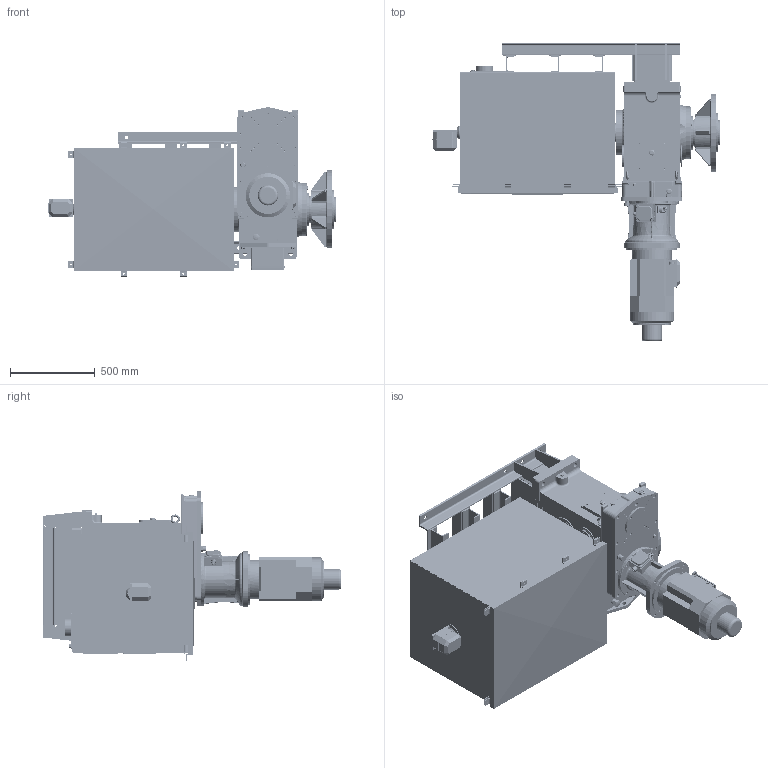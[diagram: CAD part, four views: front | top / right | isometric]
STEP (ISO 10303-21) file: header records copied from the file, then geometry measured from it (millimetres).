
FILE_DESCRIPTION(/* description */ (''),/* implementation_level */ '2;1');
FILE_NAME(/* name */ 'K:\NEMANJA\CABLE REEL\CABLE REEL DA\0700-6\07006005 DA-CRVD\STEP\75959.stp',/* time_stamp */ '2017-03-16T13:32:50+01:00',/* author */ ('zeldjo01'),/* organization */ ('Hillmar Industries Ltd.'),/* preprocessor_version */ 'ST-DEVELOPER v16.1',/* originating_system */ 'Autodesk Inventor 2016',/* authorisation */ '');
FILE_SCHEMA (('AUTOMOTIVE_DESIGN { 1 0 10303 214 3 1 1 }'));
Products named in the file (1): 75959
Bounding box: 1698.14 x 1764.09 x 999.12 mm (x, y, z)
Volume: 120085751.8 mm3; surface area: 17748241.8 mm2
Topology: 13 solids, 13 shells, 5082 faces, 13297 edges, 8523 vertices
Faces by surface type: plane 2153, cylinder 1653, bspline 591, cone 417, torus 225, sphere 43
Full cylindrical faces by diameter (mm): 7 x4, 8 x2, 8.376 x16, 8.731 x1, 9 x6, 10 x25, 10.106 x86, 10.38 x2, 10.4 x4, 11 x32, 11.053 x5, 12 x10, 12.5 x6, 13 x43, 13.2 x2, 13.5 x12, 14 x28, 15 x6, 16 x2, 16.974 x4, 17.2 x5, 17.336 x1, 17.4 x1, 17.475 x1, 18 x5, 18.256 x3, 18.38 x4, 20 x28, 20.5 x4, 21.336 x1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
Entity records: 171421 total; most frequent: CARTESIAN_POINT 48942, ORIENTED_EDGE 24182, DIRECTION 23251, EDGE_CURVE 12073, AXIS2_PLACEMENT_3D 8642, VERTEX_POINT 8114, EDGE_LOOP 6500, LINE 5967
